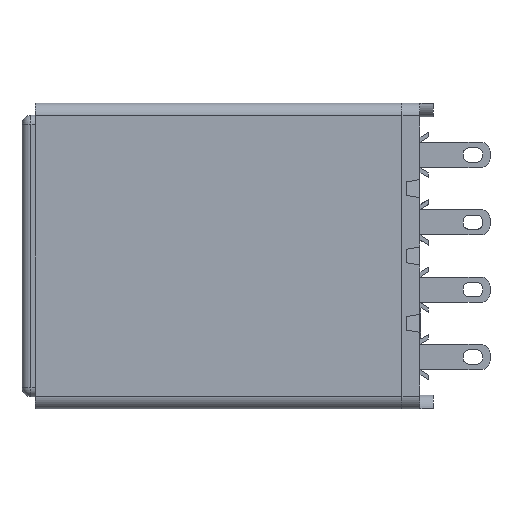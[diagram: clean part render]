
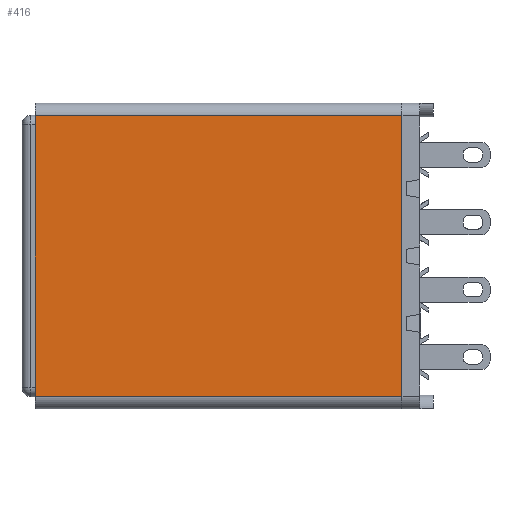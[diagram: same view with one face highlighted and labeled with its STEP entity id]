
A CAD part, left-side view. The second image highlights one B-rep face of the part: STEP entity #416.
In plain terms, the highlighted planar face has unit normal (-1, 0, 0).
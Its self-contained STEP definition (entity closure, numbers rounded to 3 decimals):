
#416=ADVANCED_FACE('',(#7963),#7965,.T.);
#7963=FACE_BOUND('',#7964,.T.);
#7964=EDGE_LOOP('',(#13986,#13987,#13988,#13989));
#7965=PLANE('',#7966);
#7966=AXIS2_PLACEMENT_3D('',#7967,#7968,#7969);
#7967=CARTESIAN_POINT('',(-16.5,44.3,15.6));
#7968=DIRECTION('',(-1.,0.,0.));
#7969=DIRECTION('',(0.,0.,-1.));
#13986=ORIENTED_EDGE('',*,*,#18550,.T.);
#13987=ORIENTED_EDGE('',*,*,#18551,.T.);
#13988=ORIENTED_EDGE('',*,*,#18499,.F.);
#13989=ORIENTED_EDGE('',*,*,#18549,.F.);
#18499=EDGE_CURVE('',#20840,#20842,#20843,.T.);
#18549=EDGE_CURVE('',#20924,#20840,#20926,.T.);
#18550=EDGE_CURVE('',#20924,#20927,#20928,.T.);
#18551=EDGE_CURVE('',#20927,#20842,#20929,.T.);
#20840=VERTEX_POINT('',#24765);
#20842=VERTEX_POINT('',#24770);
#20843=LINE('',#24771,#24772);
#20924=VERTEX_POINT('',#24959);
#20926=LINE('',#24964,#24965);
#20927=VERTEX_POINT('',#24967);
#20928=LINE('',#24968,#24969);
#20929=LINE('',#24971,#24972);
#24765=CARTESIAN_POINT('',(-16.5,3.5,15.6));
#24770=CARTESIAN_POINT('',(-16.5,3.5,-15.6));
#24771=CARTESIAN_POINT('',(-16.5,3.5,15.6));
#24772=VECTOR('',#24773,1.);
#24773=DIRECTION('',(0.,0.,-1.));
#24959=CARTESIAN_POINT('',(-16.5,44.3,15.6));
#24964=CARTESIAN_POINT('',(-16.5,44.3,15.6));
#24965=VECTOR('',#24966,1.);
#24966=DIRECTION('',(0.,-1.,0.));
#24967=CARTESIAN_POINT('',(-16.5,44.3,-15.6));
#24968=CARTESIAN_POINT('',(-16.5,44.3,15.6));
#24969=VECTOR('',#24970,1.);
#24970=DIRECTION('',(0.,0.,-1.));
#24971=CARTESIAN_POINT('',(-16.5,44.3,-15.6));
#24972=VECTOR('',#24973,1.);
#24973=DIRECTION('',(0.,-1.,0.));
